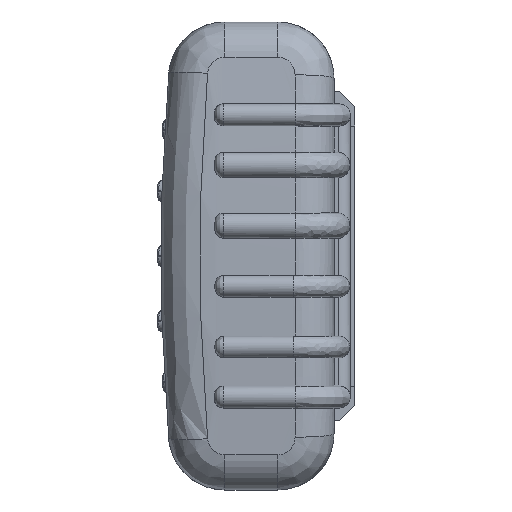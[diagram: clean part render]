
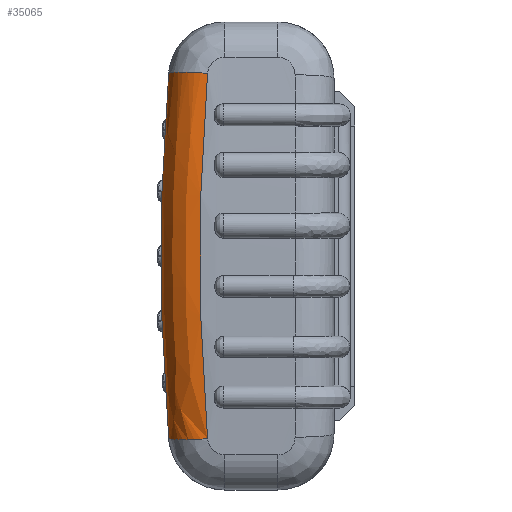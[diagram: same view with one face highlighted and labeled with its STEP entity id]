
A CAD part, left-side view. The second image highlights one B-rep face of the part: STEP entity #35065.
In plain terms, the highlighted free-form (B-spline) face has degree [3, 2] with [6, 3] control points.
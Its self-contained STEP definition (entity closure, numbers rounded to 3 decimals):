
#410 = CARTESIAN_POINT ( 'NONE',  ( 89.121, 39.941, -14.469 ) ) ;
#1733 = CARTESIAN_POINT ( 'NONE',  ( 78.259, 29.188, -41.339 ) ) ;
#1773 = AXIS2_PLACEMENT_3D ( 'NONE', #45789, #21246, #49878 ) ;
#2319 = B_SPLINE_CURVE_WITH_KNOTS ( 'NONE', 3,
 ( #47196, #43097, #51318, #26844, #2364, #30953 ),
 .UNSPECIFIED., .F., .F.,
 ( 4, 2, 4 ),
 ( 0.012, 0.054, 0.096 ),
 .UNSPECIFIED. ) ;
#2364 = CARTESIAN_POINT ( 'NONE',  ( 79.497, 39.343, -28.135 ) ) ;
#2880 = VERTEX_POINT ( 'NONE', #6099 ) ;
#4292 = ORIENTED_EDGE ( 'NONE', *, *, #19949, .F. ) ;
#4508 = CARTESIAN_POINT ( 'NONE',  ( 88.476, 30.346, -28.258 ) ) ;
#5834 = DIRECTION ( 'NONE',  ( 0.996, 0., -0.09 ) ) ;
#5982 = CARTESIAN_POINT ( 'NONE',  ( 78.259, 38.156, -42.101 ) ) ;
#6078 = B_SPLINE_CURVE_WITH_KNOTS ( 'NONE', 3,
 ( #7276, #39989, #15451, #44109, #19575, #48205 ),
 .UNSPECIFIED., .F., .F.,
 ( 4, 2, 4 ),
 ( 0.004, 0.046, 0.088 ),
 .UNSPECIFIED. ) ;
#6099 = CARTESIAN_POINT ( 'NONE',  ( 78.259, 38.156, 42.101 ) ) ;
#7276 = CARTESIAN_POINT ( 'NONE',  ( 87.222, 29.188, -42.148 ) ) ;
#8581 = CARTESIAN_POINT ( 'NONE',  ( 79.489, 39.335, -28.227 ) ) ;
#8874 = CIRCLE ( 'NONE', #37683, 9. ) ;
#12501 = CARTESIAN_POINT ( 'NONE',  ( 88.476, 30.346, 28.258 ) ) ;
#12676 = CARTESIAN_POINT ( 'NONE',  ( 87.154, 38.088, -42.898 ) ) ;
#13274 = CIRCLE ( 'NONE', #1773, 9. ) ;
#13942 = ORIENTED_EDGE ( 'NONE', *, *, #30554, .T. ) ;
#15451 = CARTESIAN_POINT ( 'NONE',  ( 89.121, 30.941, -14.107 ) ) ;
#15668 = VERTEX_POINT ( 'NONE', #15856 ) ;
#15735 = VERTEX_POINT ( 'NONE', #52917 ) ;
#15856 = CARTESIAN_POINT ( 'NONE',  ( 87.222, 29.188, -42.148 ) ) ;
#16614 = CARTESIAN_POINT ( 'NONE',  ( 79.489, 39.335, 28.227 ) ) ;
#16619 = ORIENTED_EDGE ( 'NONE', *, *, #38447, .F. ) ;
#19575 = CARTESIAN_POINT ( 'NONE',  ( 88.486, 30.354, 28.156 ) ) ;
#19949 = EDGE_CURVE ( 'NONE', #15668, #15735, #6078, .T. ) ;
#20744 = CARTESIAN_POINT ( 'NONE',  ( 89.121, 39.941, 14.469 ) ) ;
#21246 = DIRECTION ( 'NONE',  ( 0.09, 0.084, -0.992 ) ) ;
#23219 = FACE_OUTER_BOUND ( 'NONE', #31786, .T. ) ;
#24467 = VERTEX_POINT ( 'NONE', #5982 ) ;
#24882 = CARTESIAN_POINT ( 'NONE',  ( 89.121, 30.941, -14.212 ) ) ;
#26844 = CARTESIAN_POINT ( 'NONE',  ( 80.121, 39.941, -14.101 ) ) ;
#29011 = CARTESIAN_POINT ( 'NONE',  ( 80.121, 39.941, -14.196 ) ) ;
#29881 = EDGE_CURVE ( 'NONE', #15668, #24467, #8874, .T. ) ;
#30324 = DIRECTION ( 'NONE',  ( 0.09, 0.084, 0.992 ) ) ;
#30554 = EDGE_CURVE ( 'NONE', #2880, #15735, #13274, .T. ) ;
#30953 = CARTESIAN_POINT ( 'NONE',  ( 78.259, 38.156, -42.101 ) ) ;
#31786 = EDGE_LOOP ( 'NONE', ( #4292, #47232, #16619, #13942 ) ) ;
#33095 = CARTESIAN_POINT ( 'NONE',  ( 88.456, 39.314, -28.734 ) ) ;
#35065 = ADVANCED_FACE ( 'NONE', ( #23219 ), #45023, .T. ) ;
#36692 = CARTESIAN_POINT ( 'NONE',  ( 87.154, 38.088, 42.898 ) ) ;
#37039 = CARTESIAN_POINT ( 'NONE',  ( 78.259, 38.156, 42.101 ) ) ;
#37210 = CARTESIAN_POINT ( 'NONE',  ( 87.222, 29.188, -42.148 ) ) ;
#37683 = AXIS2_PLACEMENT_3D ( 'NONE', #1733, #30324, #5834 ) ;
#38447 = EDGE_CURVE ( 'NONE', #2880, #24467, #2319, .T. ) ;
#39989 = CARTESIAN_POINT ( 'NONE',  ( 88.486, 30.354, -28.156 ) ) ;
#40979 = CARTESIAN_POINT ( 'NONE',  ( 87.222, 29.188, 42.148 ) ) ;
#41152 = CARTESIAN_POINT ( 'NONE',  ( 88.456, 39.314, 28.734 ) ) ;
#41320 = CARTESIAN_POINT ( 'NONE',  ( 78.259, 38.156, -42.101 ) ) ;
#43097 = CARTESIAN_POINT ( 'NONE',  ( 79.497, 39.343, 28.135 ) ) ;
#44109 = CARTESIAN_POINT ( 'NONE',  ( 89.121, 30.941, 14.107 ) ) ;
#45023 =( BOUNDED_SURFACE ( )  B_SPLINE_SURFACE ( 3, 2, ( 
 ( #40979, #36692, #37039 ),
 ( #12501, #41152, #16614 ),
 ( #45267, #20744, #49376 ),
 ( #24882, #410, #29011 ),
 ( #4508, #33095, #8581 ),
 ( #37210, #12676, #41320 ) ),
 .UNSPECIFIED., .F., .F., .F. ) 
 B_SPLINE_SURFACE_WITH_KNOTS ( ( 4, 2, 4 ),
 ( 3, 3 ),
 ( 0.084, 0.125, 0.166 ),
 ( 0., 1. ),
 .UNSPECIFIED. ) 
 GEOMETRIC_REPRESENTATION_ITEM ( )  RATIONAL_B_SPLINE_SURFACE ( (
 ( 1., 0.71, 1.),
 ( 1., 0.708, 1.),
 ( 1., 0.707, 1.),
 ( 1., 0.707, 1.),
 ( 1., 0.708, 1.),
 ( 1., 0.71, 1.) ) ) 
 REPRESENTATION_ITEM ( '' )  SURFACE ( )  );
#45267 = CARTESIAN_POINT ( 'NONE',  ( 89.121, 30.941, 14.212 ) ) ;
#45789 = CARTESIAN_POINT ( 'NONE',  ( 78.259, 29.188, 41.339 ) ) ;
#47196 = CARTESIAN_POINT ( 'NONE',  ( 78.259, 38.156, 42.101 ) ) ;
#47232 = ORIENTED_EDGE ( 'NONE', *, *, #29881, .T. ) ;
#48205 = CARTESIAN_POINT ( 'NONE',  ( 87.222, 29.188, 42.148 ) ) ;
#49376 = CARTESIAN_POINT ( 'NONE',  ( 80.121, 39.941, 14.196 ) ) ;
#49878 = DIRECTION ( 'NONE',  ( -0.996, 0., -0.09 ) ) ;
#51318 = CARTESIAN_POINT ( 'NONE',  ( 80.121, 39.941, 14.101 ) ) ;
#52917 = CARTESIAN_POINT ( 'NONE',  ( 87.222, 29.188, 42.148 ) ) ;
